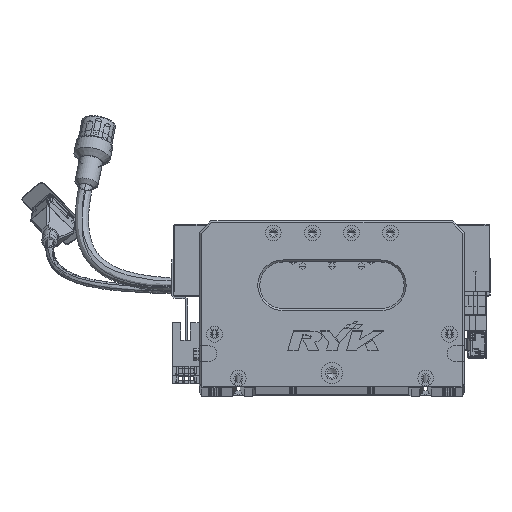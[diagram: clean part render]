
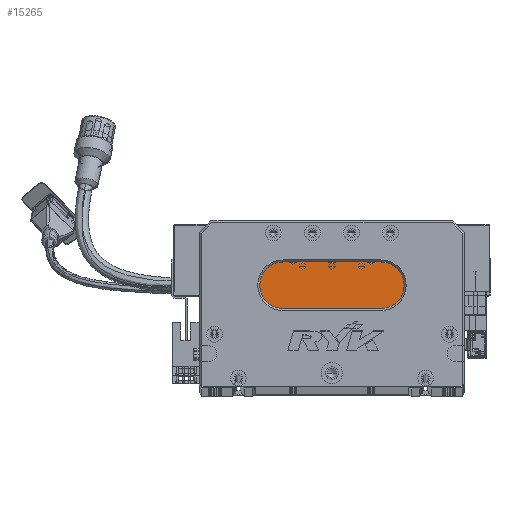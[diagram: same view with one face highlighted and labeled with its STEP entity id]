
A CAD part, top view. The second image highlights one B-rep face of the part: STEP entity #15265.
In plain terms, the highlighted planar face has unit normal (0, 0, 1) as drawn and (0, 0, -1) by its records, which use the part's own axes.
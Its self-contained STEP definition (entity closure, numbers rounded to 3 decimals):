
#32 = DIRECTION ( 'NONE',  ( -1., 0., 0. ) ) ;
#1065 = DIRECTION ( 'NONE',  ( -1., 0., 0. ) ) ;
#4320 = DIRECTION ( 'NONE',  ( 0., 0., -1. ) ) ;
#5516 = FACE_OUTER_BOUND ( 'NONE', #70347, .T. ) ;
#7663 = EDGE_CURVE ( 'NONE', #75408, #88881, #120439, .T. ) ;
#11221 = DIRECTION ( 'NONE',  ( 0., 0., -1. ) ) ;
#11651 = CARTESIAN_POINT ( 'NONE',  ( 93., 52., 13. ) ) ;
#15194 = VERTEX_POINT ( 'NONE', #28606 ) ;
#15265 = ADVANCED_FACE ( 'NONE', ( #5516 ), #69264, .T. ) ;
#20654 = CIRCLE ( 'NONE', #37928, 12. ) ;
#21849 = ORIENTED_EDGE ( 'NONE', *, *, #110030, .T. ) ;
#26813 = CARTESIAN_POINT ( 'NONE',  ( 43., 64., 13. ) ) ;
#28606 = CARTESIAN_POINT ( 'NONE',  ( 31., 52., 13. ) ) ;
#29705 = DIRECTION ( 'NONE',  ( 0., 0., -1. ) ) ;
#31498 = CARTESIAN_POINT ( 'NONE',  ( 43., 52., 13. ) ) ;
#32123 = CARTESIAN_POINT ( 'NONE',  ( 43., 40., 13. ) ) ;
#32313 = DIRECTION ( 'NONE',  ( -1., 0., 0. ) ) ;
#33092 = DIRECTION ( 'NONE',  ( -1., 0., 0. ) ) ;
#37928 = AXIS2_PLACEMENT_3D ( 'NONE', #31498, #4320, #32313 ) ;
#39425 = ORIENTED_EDGE ( 'NONE', *, *, #54145, .T. ) ;
#39927 = ORIENTED_EDGE ( 'NONE', *, *, #7663, .T. ) ;
#41689 = VERTEX_POINT ( 'NONE', #26813 ) ;
#41994 = DIRECTION ( 'NONE',  ( 1., 0., 0. ) ) ;
#42166 = CARTESIAN_POINT ( 'NONE',  ( 93., 52., 13. ) ) ;
#42833 = CARTESIAN_POINT ( 'NONE',  ( 93., 40., 13. ) ) ;
#54145 = EDGE_CURVE ( 'NONE', #119039, #75408, #120619, .T. ) ;
#59630 = VECTOR ( 'NONE', #41994, 1000. ) ;
#61237 = DIRECTION ( 'NONE',  ( -1., 0., 0. ) ) ;
#61663 = DIRECTION ( 'NONE',  ( 0., 0., -1. ) ) ;
#67376 = CARTESIAN_POINT ( 'NONE',  ( 43., 52., 13. ) ) ;
#68969 = AXIS2_PLACEMENT_3D ( 'NONE', #11651, #11221, #1065 ) ;
#69264 = PLANE ( 'NONE',  #68969 ) ;
#70347 = EDGE_LOOP ( 'NONE', ( #39425, #39927, #73348, #116064, #21849 ) ) ;
#72551 = CARTESIAN_POINT ( 'NONE',  ( 93., 40., 13. ) ) ;
#73348 = ORIENTED_EDGE ( 'NONE', *, *, #123173, .T. ) ;
#75408 = VERTEX_POINT ( 'NONE', #72551 ) ;
#83923 = AXIS2_PLACEMENT_3D ( 'NONE', #42166, #61663, #61237 ) ;
#86533 = AXIS2_PLACEMENT_3D ( 'NONE', #67376, #29705, #32 ) ;
#88881 = VERTEX_POINT ( 'NONE', #32123 ) ;
#91404 = LINE ( 'NONE', #99594, #59630 ) ;
#95218 = CARTESIAN_POINT ( 'NONE',  ( 93., 64., 13. ) ) ;
#99594 = CARTESIAN_POINT ( 'NONE',  ( 93., 64., 13. ) ) ;
#110030 = EDGE_CURVE ( 'NONE', #41689, #119039, #91404, .T. ) ;
#116064 = ORIENTED_EDGE ( 'NONE', *, *, #121932, .T. ) ;
#119039 = VERTEX_POINT ( 'NONE', #95218 ) ;
#120439 = LINE ( 'NONE', #42833, #124937 ) ;
#120619 = CIRCLE ( 'NONE', #83923, 12. ) ;
#121932 = EDGE_CURVE ( 'NONE', #15194, #41689, #125425, .T. ) ;
#123173 = EDGE_CURVE ( 'NONE', #88881, #15194, #20654, .T. ) ;
#124937 = VECTOR ( 'NONE', #33092, 1000. ) ;
#125425 = CIRCLE ( 'NONE', #86533, 12. ) ;
